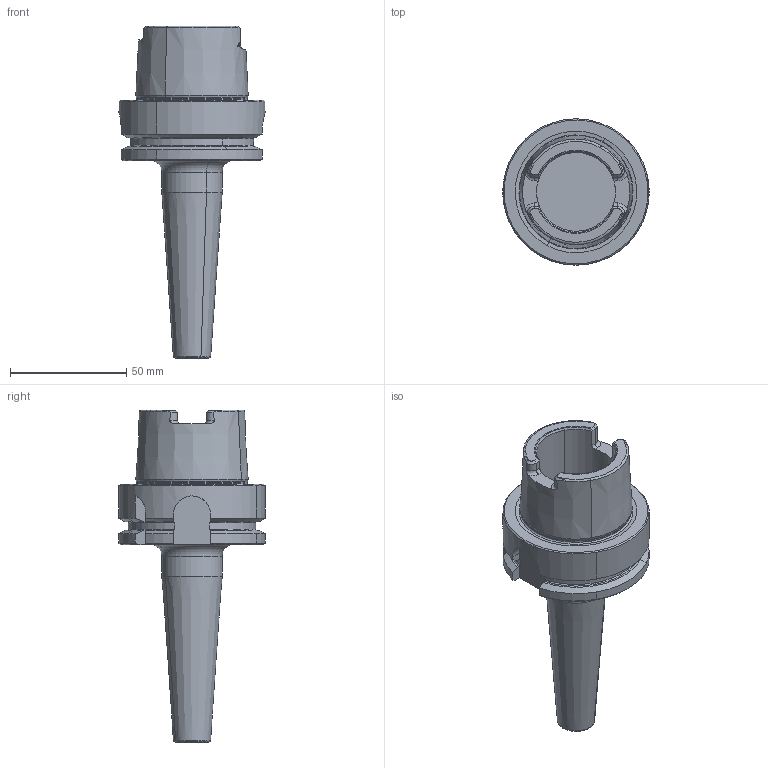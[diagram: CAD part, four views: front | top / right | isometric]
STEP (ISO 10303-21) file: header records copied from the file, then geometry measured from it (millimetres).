
FILE_DESCRIPTION(('CATIA V5 STEP','CAx-IF Rec.Pracs.--- Model Styling and Organization---1.2---2011-12-15'),'2;1');
FILE_NAME('\\nas01\drv1\utils\eitdev\rte\eit\transmagicconvert\db\out\4504444 L.stp','2014-03-27T07:42:11+00:00',('none'),('none'),'CATIA Version 5 Release 21 SP 5 (IN-10)','CATIA V5 STEP AP214','none');
FILE_SCHEMA(('AUTOMOTIVE_DESIGN { 1 0 10303 214 1 1 1 1 }'));
Length unit declared in the file: millimetre
Products named in the file (1): 60972314_0 Holder-Tool HSK A 63 SRK 10X85
Bounding box: 63 x 63 x 143 mm (x, y, z)
Volume: 122665.9 mm3; surface area: 26611.2 mm2
Topology: 1 solids, 1 shells, 136 faces, 351 edges, 220 vertices
Faces by surface type: plane 41, cone 35, cylinder 32, torus 28
Entity records: 4309 total; most frequent: CARTESIAN_POINT 1375, ORIENTED_EDGE 702, DIRECTION 434, EDGE_CURVE 351, AXIS2_PLACEMENT_3D 232, VERTEX_POINT 220, CIRCLE 151, EDGE_LOOP 139
